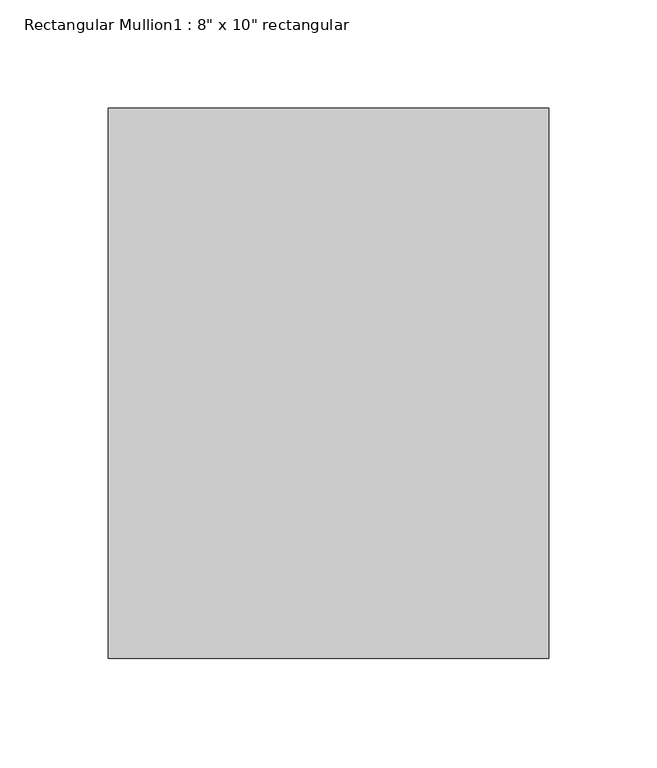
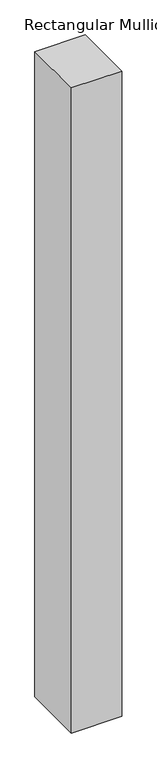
"""IFC4 building model written with IfcOpenShell, lengths in millimetres: member geometry."""

from ifc_helpers import new_model, si_unit, frame, origin, place, context, project, spatial, polyline, outline, extrude, source, transform, mapped, element, save


def member_4370fb8a(model_context):
    return source(origin(), model_context, "Body", "SweptSolid", [
        extrude(outline(polyline([(0.0, 127.0), (0.0, -127.0), (-203.2, -127.0), (-203.2, 127.0), (0.0, 127.0)])), frame((0.0, 0.0, -2743.2), z_axis=(0.0, 0.0, 1.0), x_axis=(1.0, 0.0, 0.0)), (0.0, 0.0, 1.0), 2743.2),
    ])


if __name__ == "__main__":
    model = new_model("IFC4")
    model_context = context("Model", 3, world=origin())
    ifc_project = project(units=[si_unit("LENGTHUNIT", "METRE", prefix="MILLI")], contexts=[model_context])
    site = spatial("IfcSite", under=ifc_project)
    building = spatial("IfcBuilding", under=site)
    placement = place(None, origin())
    member_shape = member_4370fb8a(model_context)
    element("IfcMember", 1, ObjectType="Rectangular Mullion1 : 8\" x 10\" rectangular", at=placement, inside=building, context=model_context, shape_type="MappedRepresentation", body=[
        mapped(member_shape, transform((0.0, 0.0, 0.0), x_axis=(1.0, 0.0, 0.0), y_axis=(0.0, 1.0, 0.0), z_axis=(0.0, 0.0, 1.0))),
    ])
    save(model, "model.ifc")
